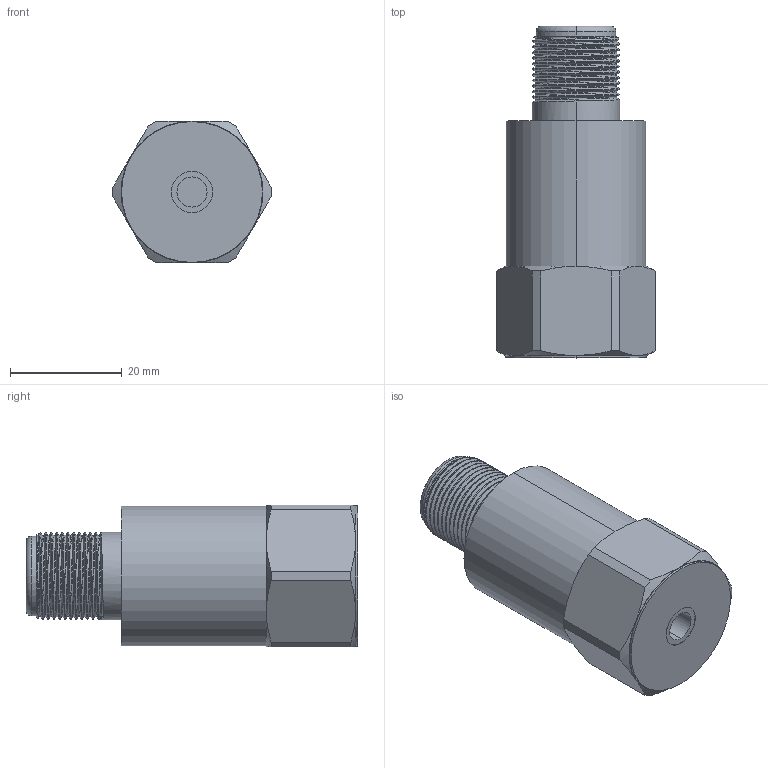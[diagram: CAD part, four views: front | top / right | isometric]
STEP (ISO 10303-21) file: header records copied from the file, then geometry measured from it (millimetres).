
FILE_DESCRIPTION (( 'STEP AP214' ), '1' );
FILE_NAME ('BVS1A91-25.STEP', '2026-03-31T06:20:36', ( '' ), ( '' ), 'SwSTEP 2.0', 'SolidWorks 2025', '' );
FILE_SCHEMA (( 'AUTOMOTIVE_DESIGN' ));
Length unit declared in the file: millimetre
Products named in the file (1): BVS1A91-25
Bounding box: 28.33 x 59.4 x 25.4 mm (x, y, z)
Volume: 22876.1 mm3; surface area: 6383.6 mm2
Topology: 1 solids, 1 shells, 79 faces, 196 edges, 126 vertices
Faces by surface type: cylinder 35, plane 24, cone 15, bspline 3, torus 2
Entity records: 4494 total; most frequent: CARTESIAN_POINT 2821, ORIENTED_EDGE 392, DIRECTION 289, EDGE_CURVE 196, VERTEX_POINT 126, AXIS2_PLACEMENT_3D 119, EDGE_LOOP 86, FACE_OUTER_BOUND 79
